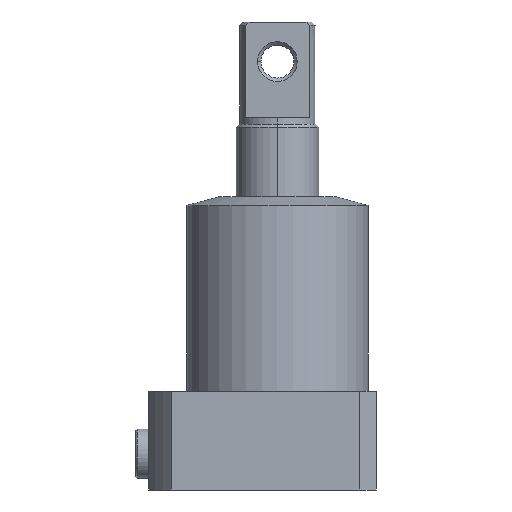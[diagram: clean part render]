
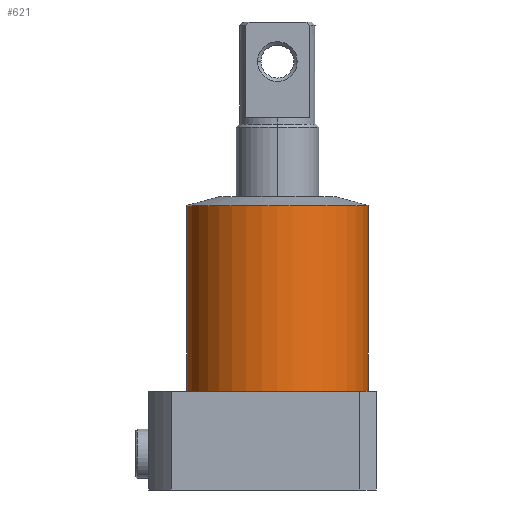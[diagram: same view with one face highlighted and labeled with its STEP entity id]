
A CAD part, front view. The second image highlights one B-rep face of the part: STEP entity #621.
In plain terms, the highlighted cylindrical face has radius 27.5 mm (diameter 55 mm), a partial arc.
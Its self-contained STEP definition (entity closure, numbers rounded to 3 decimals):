
#621 = ADVANCED_FACE ( 'NONE', ( #14402 ), #7609, .T. ) ;
#724 = VERTEX_POINT ( 'NONE', #3922 ) ;
#887 = VECTOR ( 'NONE', #16079, 1000. ) ;
#913 = ORIENTED_EDGE ( 'NONE', *, *, #14720, .F. ) ;
#1056 = CARTESIAN_POINT ( 'NONE',  ( -27.5, 0., 86.321 ) ) ;
#1173 = EDGE_CURVE ( 'NONE', #14819, #11006, #14182, .T. ) ;
#1903 = CARTESIAN_POINT ( 'NONE',  ( -27.5, 0., 89. ) ) ;
#2348 = DIRECTION ( 'NONE',  ( 0., 0., -1. ) ) ;
#2961 = ORIENTED_EDGE ( 'NONE', *, *, #8049, .F. ) ;
#3052 = CARTESIAN_POINT ( 'NONE',  ( 0., 0., 86.321 ) ) ;
#3106 = DIRECTION ( 'NONE',  ( 0., 0., 1. ) ) ;
#3174 = DIRECTION ( 'NONE',  ( -1., 0., 0. ) ) ;
#3270 = AXIS2_PLACEMENT_3D ( 'NONE', #3052, #3106, #3174 ) ;
#3696 = EDGE_LOOP ( 'NONE', ( #913, #8664, #10823, #2961 ) ) ;
#3736 = VECTOR ( 'NONE', #10859, 1000. ) ;
#3793 = EDGE_CURVE ( 'NONE', #14819, #724, #4149, .T. ) ;
#3922 = CARTESIAN_POINT ( 'NONE',  ( -27.5, 0., 30. ) ) ;
#4149 = LINE ( 'NONE', #1903, #3736 ) ;
#4156 = VERTEX_POINT ( 'NONE', #6967 ) ;
#4318 = LINE ( 'NONE', #14785, #887 ) ;
#6967 = CARTESIAN_POINT ( 'NONE',  ( 27.5, 0., 30. ) ) ;
#7609 = CYLINDRICAL_SURFACE ( 'NONE', #8747, 27.5 ) ;
#8049 = EDGE_CURVE ( 'NONE', #4156, #724, #12282, .T. ) ;
#8664 = ORIENTED_EDGE ( 'NONE', *, *, #1173, .F. ) ;
#8747 = AXIS2_PLACEMENT_3D ( 'NONE', #9586, #12304, #16123 ) ;
#9586 = CARTESIAN_POINT ( 'NONE',  ( 0., 0., 89. ) ) ;
#10030 = CARTESIAN_POINT ( 'NONE',  ( 0., 0., 30. ) ) ;
#10807 = AXIS2_PLACEMENT_3D ( 'NONE', #10030, #2348, #11305 ) ;
#10823 = ORIENTED_EDGE ( 'NONE', *, *, #3793, .T. ) ;
#10859 = DIRECTION ( 'NONE',  ( 0., 0., -1. ) ) ;
#11006 = VERTEX_POINT ( 'NONE', #12766 ) ;
#11305 = DIRECTION ( 'NONE',  ( -1., 0., 0. ) ) ;
#12282 = CIRCLE ( 'NONE', #10807, 27.5 ) ;
#12304 = DIRECTION ( 'NONE',  ( 0., 0., -1. ) ) ;
#12766 = CARTESIAN_POINT ( 'NONE',  ( 27.5, 0., 86.321 ) ) ;
#14182 = CIRCLE ( 'NONE', #3270, 27.5 ) ;
#14402 = FACE_OUTER_BOUND ( 'NONE', #3696, .T. ) ;
#14720 = EDGE_CURVE ( 'NONE', #11006, #4156, #4318, .T. ) ;
#14785 = CARTESIAN_POINT ( 'NONE',  ( 27.5, 0., 89. ) ) ;
#14819 = VERTEX_POINT ( 'NONE', #1056 ) ;
#16079 = DIRECTION ( 'NONE',  ( 0., 0., -1. ) ) ;
#16123 = DIRECTION ( 'NONE',  ( -1., 0., 0. ) ) ;
